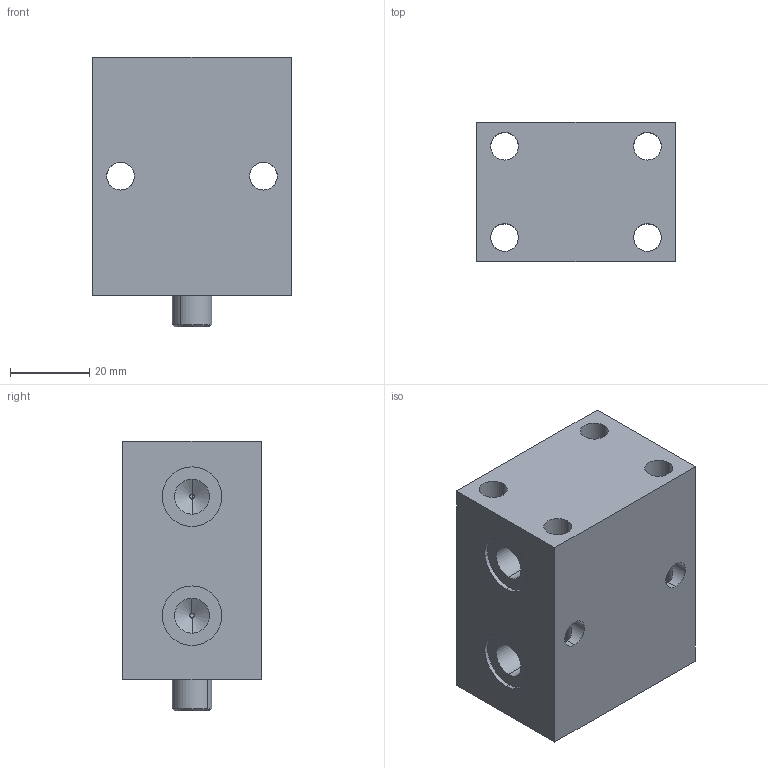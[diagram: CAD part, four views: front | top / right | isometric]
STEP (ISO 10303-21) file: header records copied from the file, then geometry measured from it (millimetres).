
FILE_DESCRIPTION (( 'STEP AP203' ), '1' );
FILE_NAME ('Block cylinder B01C-001F.STEP', '2022-07-09T18:22:49', ( '' ), ( '' ), 'SwSTEP 2.0', 'SolidWorks 2017', '' );
FILE_SCHEMA (( 'CONFIG_CONTROL_DESIGN' ));
Length unit declared in the file: millimetre
Products named in the file (3): Body_001F; Piston_001F; Block cylinder B01C-001F
Assembly tree (2 placements, depth 2):
  Block cylinder B01C-001F
    Body_001F
    Piston_001F
Bounding box: 50 x 35 x 68 mm (x, y, z)
Volume: 90261.6 mm3; surface area: 23822 mm2
Topology: 2 solids, 2 shells, 341 faces, 930 edges, 607 vertices
Faces by surface type: bspline 156, plane 133, cylinder 44, cone 8
Entity records: 17363 total; most frequent: CARTESIAN_POINT 9547, ORIENTED_EDGE 1856, DIRECTION 1018, EDGE_CURVE 928, VERTEX_POINT 607, VECTOR 522, LINE 522, EDGE_LOOP 381
